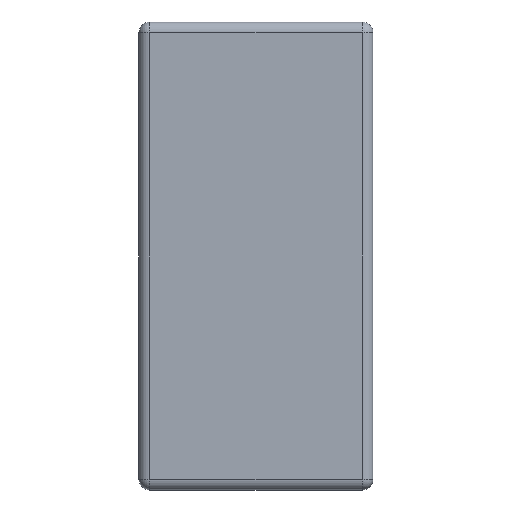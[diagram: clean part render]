
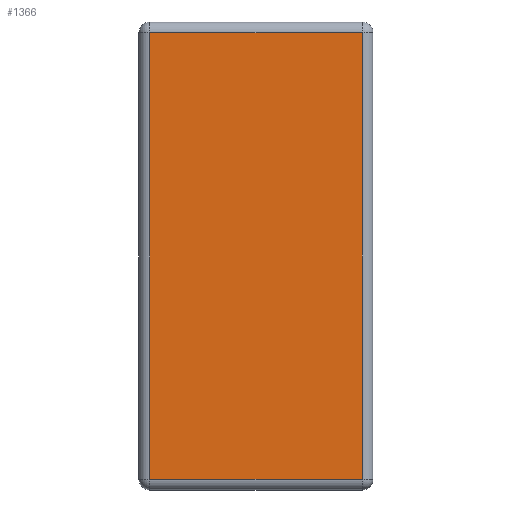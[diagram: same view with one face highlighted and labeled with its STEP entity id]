
A CAD part, left-side view. The second image highlights one B-rep face of the part: STEP entity #1366.
In plain terms, the highlighted planar face has unit normal (-1, 0, 0).
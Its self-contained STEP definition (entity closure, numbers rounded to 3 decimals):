
#25 = VECTOR ( 'NONE', #1162, 1000. ) ;
#295 = DIRECTION ( 'NONE',  ( 0., 1., 0. ) ) ;
#318 = EDGE_CURVE ( 'NONE', #893, #2254, #3429, .T. ) ;
#354 = DIRECTION ( 'NONE',  ( 0., 0., -1. ) ) ;
#397 = CARTESIAN_POINT ( 'NONE',  ( 0., -22., 44. ) ) ;
#443 = DIRECTION ( 'NONE',  ( 0., 0., 1. ) ) ;
#545 = VERTEX_POINT ( 'NONE', #4529 ) ;
#746 = EDGE_CURVE ( 'NONE', #1134, #893, #3970, .T. ) ;
#843 = PLANE ( 'NONE',  #2001 ) ;
#845 = ORIENTED_EDGE ( 'NONE', *, *, #2618, .T. ) ;
#893 = VERTEX_POINT ( 'NONE', #1340 ) ;
#1052 = CARTESIAN_POINT ( 'NONE',  ( 0., -20., 42. ) ) ;
#1134 = VERTEX_POINT ( 'NONE', #3769 ) ;
#1162 = DIRECTION ( 'NONE',  ( 0., 0., -1. ) ) ;
#1224 = DIRECTION ( 'NONE',  ( 0., -1., 0. ) ) ;
#1238 = FACE_OUTER_BOUND ( 'NONE', #1939, .T. ) ;
#1340 = CARTESIAN_POINT ( 'NONE',  ( 0., -20., -42. ) ) ;
#1366 = ADVANCED_FACE ( 'NONE', ( #1238 ), #843, .F. ) ;
#1696 = DIRECTION ( 'NONE',  ( 1., 0., 0. ) ) ;
#1939 = EDGE_LOOP ( 'NONE', ( #3251, #2498, #2971, #845 ) ) ;
#2001 = AXIS2_PLACEMENT_3D ( 'NONE', #397, #1696, #354 ) ;
#2091 = CARTESIAN_POINT ( 'NONE',  ( 0., -22., -42. ) ) ;
#2254 = VERTEX_POINT ( 'NONE', #1052 ) ;
#2441 = VECTOR ( 'NONE', #295, 1000. ) ;
#2498 = ORIENTED_EDGE ( 'NONE', *, *, #318, .T. ) ;
#2588 = EDGE_CURVE ( 'NONE', #2254, #545, #4349, .T. ) ;
#2618 = EDGE_CURVE ( 'NONE', #545, #1134, #4153, .T. ) ;
#2971 = ORIENTED_EDGE ( 'NONE', *, *, #2588, .T. ) ;
#3251 = ORIENTED_EDGE ( 'NONE', *, *, #746, .T. ) ;
#3344 = CARTESIAN_POINT ( 'NONE',  ( 0., 20., 44. ) ) ;
#3429 = LINE ( 'NONE', #4787, #4033 ) ;
#3769 = CARTESIAN_POINT ( 'NONE',  ( 0., 20., -42. ) ) ;
#3970 = LINE ( 'NONE', #2091, #4564 ) ;
#4033 = VECTOR ( 'NONE', #443, 1000. ) ;
#4153 = LINE ( 'NONE', #3344, #25 ) ;
#4349 = LINE ( 'NONE', #5510, #2441 ) ;
#4529 = CARTESIAN_POINT ( 'NONE',  ( 0., 20., 42. ) ) ;
#4564 = VECTOR ( 'NONE', #1224, 1000. ) ;
#4787 = CARTESIAN_POINT ( 'NONE',  ( 0., -20., 44. ) ) ;
#5510 = CARTESIAN_POINT ( 'NONE',  ( 0., -22., 42. ) ) ;
